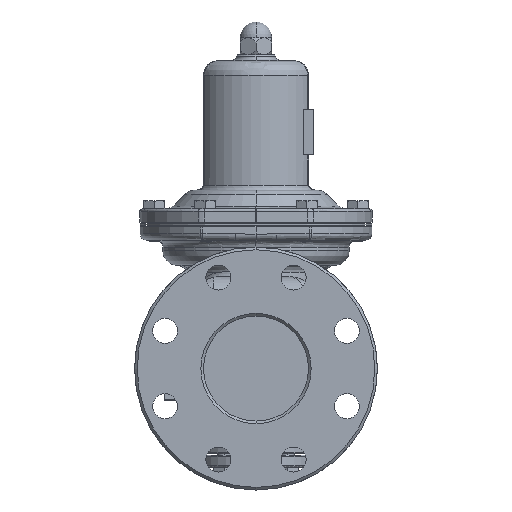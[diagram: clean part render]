
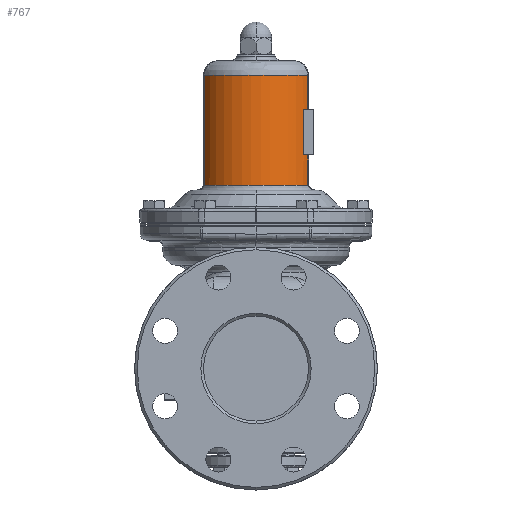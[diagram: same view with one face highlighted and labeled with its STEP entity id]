
A CAD part, left-side view. The second image highlights one B-rep face of the part: STEP entity #767.
In plain terms, the highlighted cylindrical face has radius 45 mm (diameter 90 mm), a partial arc.
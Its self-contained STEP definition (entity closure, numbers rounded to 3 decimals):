
#767=ADVANCED_FACE('',(#4926),#4925,.T.);
#4925=CYLINDRICAL_SURFACE('',#12753,45.);
#4926=FACE_OUTER_BOUND('',#12754,.T.);
#12750=CARTESIAN_POINT('',(0.,0.,0.));
#12751=DIRECTION('',(0.,0.,1.));
#12752=DIRECTION('',(1.,0.,0.));
#12753=AXIS2_PLACEMENT_3D('',#12750,#12751,#12752);
#12754=EDGE_LOOP('',(#17020,#17021,#17022,#17023,#17024,#17025,#17026,#17027,#17028,#17029,#17030,#17031));
#17020=ORIENTED_EDGE('',*,*,#19018,.F.);
#17021=ORIENTED_EDGE('',*,*,#19019,.T.);
#17022=ORIENTED_EDGE('',*,*,#19010,.T.);
#17023=ORIENTED_EDGE('',*,*,#19006,.T.);
#17024=ORIENTED_EDGE('',*,*,#19020,.T.);
#17025=ORIENTED_EDGE('',*,*,#19021,.T.);
#17026=ORIENTED_EDGE('',*,*,#19022,.T.);
#17027=ORIENTED_EDGE('',*,*,#19023,.T.);
#17028=ORIENTED_EDGE('',*,*,#19024,.T.);
#17029=ORIENTED_EDGE('',*,*,#19025,.T.);
#17030=ORIENTED_EDGE('',*,*,#19026,.F.);
#17031=ORIENTED_EDGE('',*,*,#19027,.F.);
#19006=EDGE_CURVE('',#26249,#26242,#26250,.T.);
#19010=EDGE_CURVE('',#26262,#26249,#26275,.T.);
#19018=EDGE_CURVE('',#26326,#26327,#26328,.T.);
#19019=EDGE_CURVE('',#26326,#26262,#26334,.T.);
#19020=EDGE_CURVE('',#26242,#26340,#26341,.T.);
#19021=EDGE_CURVE('',#26340,#26347,#26348,.T.);
#19022=EDGE_CURVE('',#26347,#26354,#26355,.T.);
#19023=EDGE_CURVE('',#26354,#26361,#26362,.T.);
#19024=EDGE_CURVE('',#26361,#26368,#26369,.T.);
#19025=EDGE_CURVE('',#26368,#26375,#26376,.T.);
#19026=EDGE_CURVE('',#26382,#26375,#26383,.T.);
#19027=EDGE_CURVE('',#26327,#26382,#26389,.T.);
#26242=VERTEX_POINT('',#36962);
#26249=VERTEX_POINT('',#36987);
#26250=CIRCLE('',#36991,45.);
#26262=VERTEX_POINT('',#37016);
#26275=(BOUNDED_CURVE() B_SPLINE_CURVE(3,(#37025,#37026,#37027,#37028),.UNSPECIFIED.,.F.,.F.) B_SPLINE_CURVE_WITH_KNOTS((4,4),(0.,0.),.UNSPECIFIED.) CURVE() GEOMETRIC_REPRESENTATION_ITEM() RATIONAL_B_SPLINE_CURVE((1.,1.,1.,1.)) REPRESENTATION_ITEM('') );
#26326=VERTEX_POINT('',#37100);
#26327=VERTEX_POINT('',#37101);
#26328=CIRCLE('',#37105,45.);
#26334=LINE('',#37106,#37107);
#26340=VERTEX_POINT('',#37109);
#26341=(BOUNDED_CURVE() B_SPLINE_CURVE(3,(#37110,#37111,#37112,#37113),.UNSPECIFIED.,.F.,.F.) B_SPLINE_CURVE_WITH_KNOTS((4,4),(0.,0.),.UNSPECIFIED.) CURVE() GEOMETRIC_REPRESENTATION_ITEM() RATIONAL_B_SPLINE_CURVE((1.,1.,1.,1.)) REPRESENTATION_ITEM('') );
#26347=VERTEX_POINT('',#37114);
#26348=LINE('',#37115,#37116);
#26354=VERTEX_POINT('',#37118);
#26355=(BOUNDED_CURVE() B_SPLINE_CURVE(3,(#37119,#37120,#37121,#37122,#37123,#37124),.UNSPECIFIED.,.F.,.F.) B_SPLINE_CURVE_WITH_KNOTS((4,2,4),(0.,0.001,0.002),.UNSPECIFIED.) CURVE() GEOMETRIC_REPRESENTATION_ITEM() RATIONAL_B_SPLINE_CURVE((1.,1.,1.,1.,1.,1.)) REPRESENTATION_ITEM('') );
#26361=VERTEX_POINT('',#37125);
#26362=CIRCLE('',#37129,45.);
#26368=VERTEX_POINT('',#37130);
#26369=(BOUNDED_CURVE() B_SPLINE_CURVE(3,(#37131,#37132,#37133,#37134),.UNSPECIFIED.,.F.,.F.) B_SPLINE_CURVE_WITH_KNOTS((4,4),(0.,0.002),.UNSPECIFIED.) CURVE() GEOMETRIC_REPRESENTATION_ITEM() RATIONAL_B_SPLINE_CURVE((1.,1.,1.,1.)) REPRESENTATION_ITEM('') );
#26375=VERTEX_POINT('',#37135);
#26376=LINE('',#37136,#37137);
#26382=VERTEX_POINT('',#37139);
#26383=CIRCLE('',#37143,45.);
#26389=LINE('',#37144,#37145);
#36962=CARTESIAN_POINT('',(-21.786,39.375,112.877));
#36987=CARTESIAN_POINT('',(-21.786,-39.375,112.877));
#36988=CARTESIAN_POINT('',(0.,0.,112.877));
#36989=DIRECTION('',(0.,0.,-1.));
#36990=DIRECTION('',(-0.484,0.875,0.));
#36991=AXIS2_PLACEMENT_3D('',#36988,#36989,#36990);
#37016=CARTESIAN_POINT('',(-21.786,-39.375,112.847));
#37025=CARTESIAN_POINT('',(-21.786,-39.375,112.847));
#37026=CARTESIAN_POINT('',(-21.786,-39.375,112.857));
#37027=CARTESIAN_POINT('',(-21.786,-39.375,112.867));
#37028=CARTESIAN_POINT('',(-21.786,-39.375,112.877));
#37100=CARTESIAN_POINT('',(-21.786,-39.375,86.75));
#37101=CARTESIAN_POINT('',(-26.5,-36.37,86.75));
#37102=CARTESIAN_POINT('',(0.,0.,86.75));
#37103=DIRECTION('',(0.,0.,-1.));
#37104=DIRECTION('',(1.,0.,0.));
#37105=AXIS2_PLACEMENT_3D('',#37102,#37103,#37104);
#37106=CARTESIAN_POINT('',(-21.786,-39.375,86.75));
#37107=VECTOR('',#37108,26.097);
#37108=DIRECTION('',(0.,0.,1.));
#37109=CARTESIAN_POINT('',(-21.786,39.375,112.847));
#37110=CARTESIAN_POINT('',(-21.786,39.375,112.877));
#37111=CARTESIAN_POINT('',(-21.786,39.375,112.867));
#37112=CARTESIAN_POINT('',(-21.786,39.375,112.857));
#37113=CARTESIAN_POINT('',(-21.786,39.375,112.847));
#37114=CARTESIAN_POINT('',(-21.786,39.375,30.5));
#37115=CARTESIAN_POINT('',(-21.786,39.375,112.847));
#37116=VECTOR('',#37117,82.347);
#37117=DIRECTION('',(0.,0.,-1.));
#37118=CARTESIAN_POINT('',(-21.554,39.502,29.));
#37119=CARTESIAN_POINT('',(-21.786,39.375,30.5));
#37120=CARTESIAN_POINT('',(-21.786,39.375,30.244));
#37121=CARTESIAN_POINT('',(-21.765,39.386,29.988));
#37122=CARTESIAN_POINT('',(-21.687,39.429,29.487));
#37123=CARTESIAN_POINT('',(-21.629,39.461,29.241));
#37124=CARTESIAN_POINT('',(-21.554,39.502,29.));
#37125=CARTESIAN_POINT('',(-21.554,-39.502,29.));
#37126=CARTESIAN_POINT('',(0.,0.,29.));
#37127=DIRECTION('',(0.,0.,1.));
#37128=DIRECTION('',(1.,0.,0.));
#37129=AXIS2_PLACEMENT_3D('',#37126,#37127,#37128);
#37130=CARTESIAN_POINT('',(-21.786,-39.375,30.5));
#37131=CARTESIAN_POINT('',(-21.554,-39.502,29.));
#37132=CARTESIAN_POINT('',(-21.706,-39.419,29.486));
#37133=CARTESIAN_POINT('',(-21.786,-39.375,29.985));
#37134=CARTESIAN_POINT('',(-21.786,-39.375,30.5));
#37135=CARTESIAN_POINT('',(-21.786,-39.375,52.25));
#37136=CARTESIAN_POINT('',(-21.786,-39.375,30.5));
#37137=VECTOR('',#37138,21.75);
#37138=DIRECTION('',(0.,0.,1.));
#37139=CARTESIAN_POINT('',(-26.5,-36.37,52.25));
#37140=CARTESIAN_POINT('',(0.,0.,52.25));
#37141=DIRECTION('',(0.,0.,1.));
#37142=DIRECTION('',(-1.,0.,0.));
#37143=AXIS2_PLACEMENT_3D('',#37140,#37141,#37142);
#37144=CARTESIAN_POINT('',(-26.5,-36.37,86.75));
#37145=VECTOR('',#37146,34.5);
#37146=DIRECTION('',(0.,0.,-1.));
